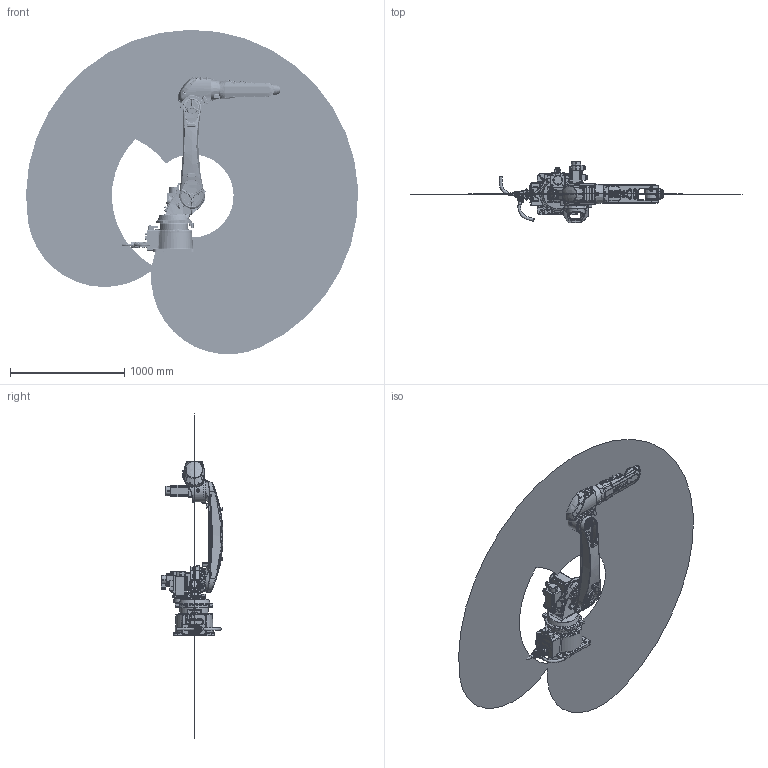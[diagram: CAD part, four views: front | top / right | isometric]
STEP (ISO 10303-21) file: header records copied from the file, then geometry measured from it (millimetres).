
FILE_DESCRIPTION(/* description */ (''),/* implementation_level */ '2;1');
FILE_NAME(/* name */ 'NB25s-3016 简化模型.stp',/* time_stamp */ '2022-12-21T14:38:00+08:00',/* author */ (''),/* organization */ (''),/* preprocessor_version */ 'ST-DEVELOPER v16',/* originating_system */ 'SIEMENS PLM Software NX 10.0',/* authorisation */ '');
FILE_SCHEMA (('CONFIG_CONTROL_DESIGN'));
Products named in the file (9): NB25s-3Dwork-D; NB25s-shuchu-A; NB25s-xiaobiqian-Clogo; NB25s-shouwan-A; NB25s-xiaobihou-A; NB25s-dabi-A; NB25s-yao-A; NB25s-base-A; NB25s-3016 简化模型
Assembly tree (8 placements, depth 2):
  NB25s-3016 简化模型
    NB25s-base-A
    NB25s-yao-A
    NB25s-dabi-A
    NB25s-xiaobihou-A
    NB25s-shouwan-A
    NB25s-xiaobiqian-Clogo
    NB25s-shuchu-A
    NB25s-3Dwork-D
Bounding box: 2911.95 x 541.74 x 2844.19 mm (x, y, z)
Volume: 71765235.1 mm3; surface area: 8701799.9 mm2
Topology: 9 solids, 39 shells, 5984 faces, 14650 edges, 9046 vertices
Faces by surface type: plane 2127, cylinder 1432, bspline 1134, cone 461, torus 359, extrusion 347, sphere 124
Full cylindrical faces by diameter (mm): 2.5 x4, 3.3 x6, 4.2 x8, 4.75 x4, 5 x20, 5.1 x4, 5.13 x8, 5.5 x42, 5.6 x15, 6 x1, 6.6 x2, 6.725 x4, 6.8 x20, 7 x65, 7.782 x2, 8.5 x2, 9.728 x2, 9.732 x2, 10 x24, 10.272 x2, 10.3 x8, 11 x4, 11.2 x1, 12.42 x1, 13 x27, 13.5 x1, 14 x17, 15 x2, 16 x42, 18 x5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
Entity records: 229941 total; most frequent: CARTESIAN_POINT 102454, ORIENTED_EDGE 26691, DIRECTION 23928, EDGE_CURVE 13349, AXIS2_PLACEMENT_3D 9168, VERTEX_POINT 8654, EDGE_LOOP 7216, ADVANCED_FACE 5984
